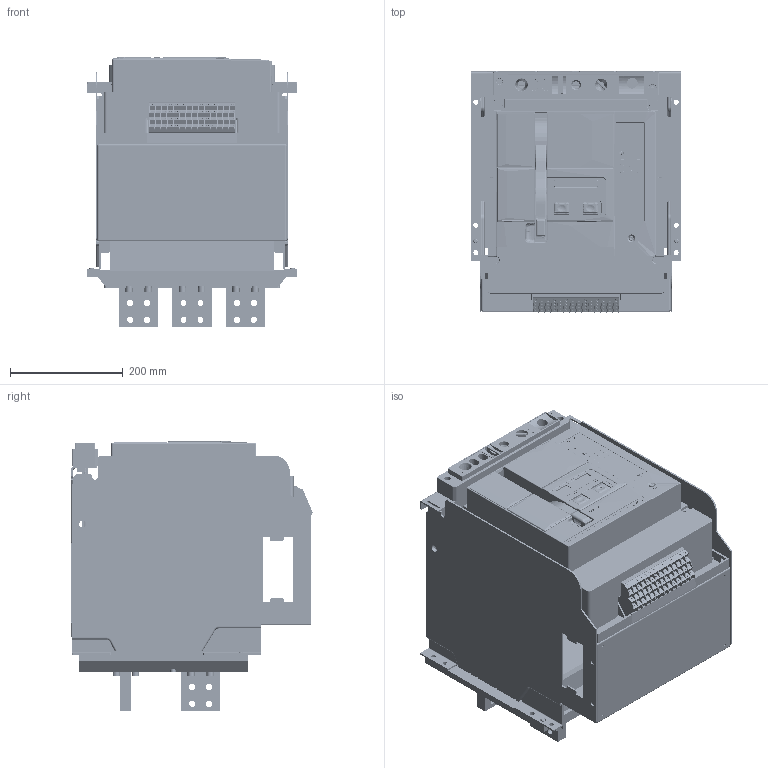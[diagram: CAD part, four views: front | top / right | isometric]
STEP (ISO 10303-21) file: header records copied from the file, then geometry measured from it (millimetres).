
FILE_DESCRIPTION((''),'2;1');
FILE_NAME('NA8-2500H-3P-D-2000A-2500A-VH_ASM','2021-11-06T11:15:55',('lcc'),(''),'CREO PARAMETRIC BY PTC INC, 2020044','CREO PARAMETRIC BY PTC INC, 2020044','');
FILE_SCHEMA(('CONFIG_CONTROL_DESIGN','SHAPE_APPEARANCE_LAYERS_GROUPS'));
Products named in the file (27): 8050A0306129T; 8050A0306120T; 8050A0306121T; 8ZTD_300_532; 8ZTD_300_531; 25-3P-DIBAN02; 8ZTD-060-206; 8ZTD-253-779; 8ZTD-253-780; 8ZTD-253-782; 8ZTD-227-004; 8ZTD-235-048; 8-040-432; 8-004-030; 8-320-094; 8-860-KZQ; 8ZTD-253-577; 8ZTD-321-090; 8ZTD-064-137; 8ZTD-024-837T; 8ZTD-860-699; 5ZTD-558-695-2500_ASM; 8580A0412105; GBT93_8; GBT70_1_M8X20; Q_NKJ_0200012_2_M8X20_ASM; NA8-2500H-3P-D-2000A-2500A-VH_ASM
Assembly tree (67 placements, depth 3):
  NA8-2500H-3P-D-2000A-2500A-VH_ASM
    8050A0306129T
    8050A0306120T
    8050A0306121T
    8ZTD_300_532
    8ZTD_300_531
    25-3P-DIBAN02
    8ZTD-060-206
    8ZTD-253-779
    8ZTD-253-780
    8ZTD-253-782
    8ZTD-227-004
    8ZTD-235-048
    8-040-432
    8-004-030
    8-320-094
    8-860-KZQ
    8ZTD-253-577
    8ZTD-321-090
    5ZTD-558-695-2500_ASM
      8ZTD-064-137
      8ZTD-024-837T  x14
      8ZTD-860-699
    8580A0412105  x6
    Q_NKJ_0200012_2_M8X20_ASM  x24
      GBT93_8
      GBT70_1_M8X20
Bounding box: 375 x 428.53 x 479.68 mm (x, y, z)
Volume: 11517983 mm3; surface area: 2807070.3 mm2
Topology: 92 solids, 145 shells, 10952 faces, 28652 edges, 18558 vertices
Faces by surface type: plane 7832, cylinder 1880, cone 407, torus 329, extrusion 248, bspline 219, sphere 36, revolution 1
Entity records: 286950 total; most frequent: CARTESIAN_POINT 65632, ORIENTED_EDGE 36781, DIRECTION 33345, EDGE_CURVE 18452, PRESENTATION_STYLE_ASSIGNMENT 15864, STYLED_ITEM 15582, CURVE_STYLE 15527, VECTOR 13894
